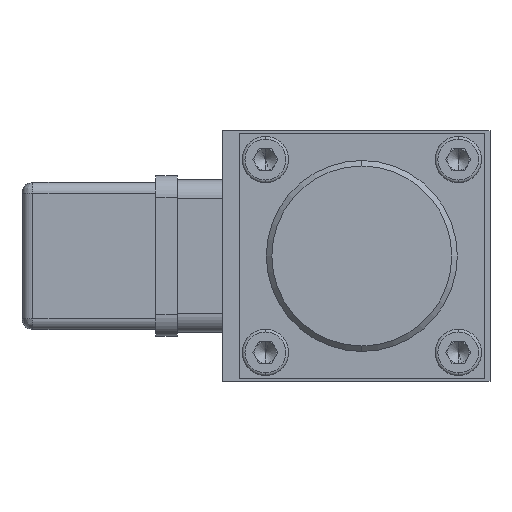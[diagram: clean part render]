
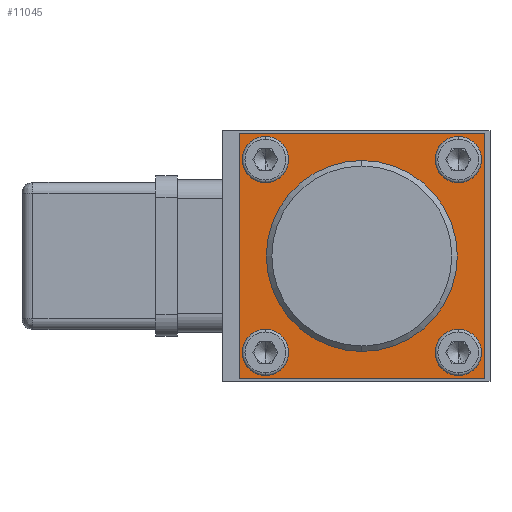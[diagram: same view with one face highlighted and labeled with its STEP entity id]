
A CAD part, left-side view. The second image highlights one B-rep face of the part: STEP entity #11045.
In plain terms, the highlighted planar face has unit normal (-1, 0, 0).
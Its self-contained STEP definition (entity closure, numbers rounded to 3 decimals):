
#39 = FACE_OUTER_BOUND ( 'NONE', #6439, .T. ) ;
#438 = VECTOR ( 'NONE', #838, 1000. ) ;
#477 = DIRECTION ( 'NONE',  ( 0., 0., -1. ) ) ;
#581 = CARTESIAN_POINT ( 'NONE',  ( -10.3, 21.5, 22.5 ) ) ;
#642 = ORIENTED_EDGE ( 'NONE', *, *, #50276, .T. ) ;
#752 = AXIS2_PLACEMENT_3D ( 'NONE', #14382, #14346, #14282 ) ;
#838 = DIRECTION ( 'NONE',  ( 0., 1., 0. ) ) ;
#933 = EDGE_CURVE ( 'NONE', #7398, #38280, #46740, .T. ) ;
#1149 = CARTESIAN_POINT ( 'NONE',  ( -10.3, -23.5, 22.5 ) ) ;
#2290 = DIRECTION ( 'NONE',  ( 0., 0., 1. ) ) ;
#3237 = DIRECTION ( 'NONE',  ( 0., -1., 0. ) ) ;
#3429 = CARTESIAN_POINT ( 'NONE',  ( -10.3, -18.68, -13.43 ) ) ;
#4287 = VERTEX_POINT ( 'NONE', #31654 ) ;
#4650 = ORIENTED_EDGE ( 'NONE', *, *, #933, .F. ) ;
#4733 = EDGE_LOOP ( 'NONE', ( #20591, #24471 ) ) ;
#5016 = VERTEX_POINT ( 'NONE', #42390 ) ;
#6439 = EDGE_LOOP ( 'NONE', ( #38947, #40164, #43174, #642 ) ) ;
#7152 = EDGE_CURVE ( 'NONE', #21377, #23053, #11452, .T. ) ;
#7398 = VERTEX_POINT ( 'NONE', #12045 ) ;
#7500 = CIRCLE ( 'NONE', #43555, 17.5 ) ;
#8492 = VERTEX_POINT ( 'NONE', #43678 ) ;
#8911 = VECTOR ( 'NONE', #3237, 1000. ) ;
#8925 = VECTOR ( 'NONE', #477, 1000. ) ;
#9335 = CARTESIAN_POINT ( 'NONE',  ( -10.3, -18.68, 21.93 ) ) ;
#9856 = EDGE_LOOP ( 'NONE', ( #46452, #47039 ) ) ;
#10150 = EDGE_CURVE ( 'NONE', #23053, #21377, #7500, .T. ) ;
#10442 = CIRCLE ( 'NONE', #21019, 4.25 ) ;
#10502 = ORIENTED_EDGE ( 'NONE', *, *, #47054, .F. ) ;
#11045 = ADVANCED_FACE ( 'NONE', ( #13138, #35220, #35169, #12760, #28371, #39 ), #25884, .T. ) ;
#11097 = VERTEX_POINT ( 'NONE', #24303 ) ;
#11127 = DIRECTION ( 'NONE',  ( 0., 0., 1. ) ) ;
#11171 = DIRECTION ( 'NONE',  ( -1., 0., 0. ) ) ;
#11187 = CARTESIAN_POINT ( 'NONE',  ( -10.3, -18.68, -17.68 ) ) ;
#11416 = EDGE_CURVE ( 'NONE', #11097, #8492, #38034, .T. ) ;
#11452 = CIRCLE ( 'NONE', #38316, 17.5 ) ;
#11817 = LINE ( 'NONE', #1149, #438 ) ;
#12045 = CARTESIAN_POINT ( 'NONE',  ( -10.3, 16.68, -13.43 ) ) ;
#12760 = FACE_BOUND ( 'NONE', #42669, .T. ) ;
#13003 = ORIENTED_EDGE ( 'NONE', *, *, #43407, .F. ) ;
#13138 = FACE_BOUND ( 'NONE', #35236, .T. ) ;
#13498 = EDGE_CURVE ( 'NONE', #5016, #51149, #11817, .T. ) ;
#14282 = DIRECTION ( 'NONE',  ( 0., 0., 1. ) ) ;
#14346 = DIRECTION ( 'NONE',  ( -1., 0., 0. ) ) ;
#14382 = CARTESIAN_POINT ( 'NONE',  ( -10.3, 16.68, 17.68 ) ) ;
#14754 = LINE ( 'NONE', #15874, #16463 ) ;
#15519 = AXIS2_PLACEMENT_3D ( 'NONE', #11187, #11171, #11127 ) ;
#15874 = CARTESIAN_POINT ( 'NONE',  ( -10.3, -23.5, 22.5 ) ) ;
#16050 = DIRECTION ( 'NONE',  ( 0., 0., 1. ) ) ;
#16463 = VECTOR ( 'NONE', #16050, 1000. ) ;
#17126 = CIRCLE ( 'NONE', #27341, 4.25 ) ;
#17387 = VERTEX_POINT ( 'NONE', #39886 ) ;
#17730 = DIRECTION ( 'NONE',  ( -1., 0., 0. ) ) ;
#18694 = AXIS2_PLACEMENT_3D ( 'NONE', #44980, #44928, #44873 ) ;
#18754 = CARTESIAN_POINT ( 'NONE',  ( -10.3, -18.68, 17.68 ) ) ;
#20412 = CIRCLE ( 'NONE', #26389, 4.25 ) ;
#20591 = ORIENTED_EDGE ( 'NONE', *, *, #10150, .F. ) ;
#20902 = CIRCLE ( 'NONE', #18694, 4.25 ) ;
#20941 = EDGE_CURVE ( 'NONE', #48378, #5016, #14754, .T. ) ;
#21019 = AXIS2_PLACEMENT_3D ( 'NONE', #36789, #43804, #43118 ) ;
#21377 = VERTEX_POINT ( 'NONE', #46652 ) ;
#23053 = VERTEX_POINT ( 'NONE', #49801 ) ;
#23884 = AXIS2_PLACEMENT_3D ( 'NONE', #26220, #26151, #26034 ) ;
#24303 = CARTESIAN_POINT ( 'NONE',  ( -10.3, 16.68, 21.93 ) ) ;
#24471 = ORIENTED_EDGE ( 'NONE', *, *, #7152, .F. ) ;
#25431 = DIRECTION ( 'NONE',  ( 0., 0., 1. ) ) ;
#25505 = DIRECTION ( 'NONE',  ( -1., 0., 0. ) ) ;
#25570 = CARTESIAN_POINT ( 'NONE',  ( -10.3, 34., 0. ) ) ;
#25884 = PLANE ( 'NONE',  #51044 ) ;
#26034 = DIRECTION ( 'NONE',  ( 0., 0., 1. ) ) ;
#26151 = DIRECTION ( 'NONE',  ( -1., 0., 0. ) ) ;
#26220 = CARTESIAN_POINT ( 'NONE',  ( -10.3, -18.68, 17.68 ) ) ;
#26389 = AXIS2_PLACEMENT_3D ( 'NONE', #47192, #47076, #47064 ) ;
#26932 = CARTESIAN_POINT ( 'NONE',  ( -10.3, -23.5, -22.5 ) ) ;
#27341 = AXIS2_PLACEMENT_3D ( 'NONE', #18754, #17730, #2290 ) ;
#28371 = FACE_BOUND ( 'NONE', #4733, .T. ) ;
#28722 = VERTEX_POINT ( 'NONE', #31821 ) ;
#29945 = LINE ( 'NONE', #581, #8925 ) ;
#30073 = EDGE_LOOP ( 'NONE', ( #48318, #51330 ) ) ;
#30329 = VERTEX_POINT ( 'NONE', #9335 ) ;
#31083 = DIRECTION ( 'NONE',  ( 0., 0., 1. ) ) ;
#31541 = DIRECTION ( 'NONE',  ( -1., 0., 0. ) ) ;
#31654 = CARTESIAN_POINT ( 'NONE',  ( -10.3, 21.5, -22.5 ) ) ;
#31764 = CARTESIAN_POINT ( 'NONE',  ( -10.3, -1., 0. ) ) ;
#31821 = CARTESIAN_POINT ( 'NONE',  ( -10.3, -18.68, 13.43 ) ) ;
#33044 = CARTESIAN_POINT ( 'NONE',  ( -10.3, 21.5, 22.5 ) ) ;
#34021 = DIRECTION ( 'NONE',  ( 0., 0., 1. ) ) ;
#34157 = DIRECTION ( 'NONE',  ( -1., 0., 0. ) ) ;
#34385 = CARTESIAN_POINT ( 'NONE',  ( -10.3, 16.68, -17.68 ) ) ;
#35169 = FACE_BOUND ( 'NONE', #30073, .T. ) ;
#35220 = FACE_BOUND ( 'NONE', #9856, .T. ) ;
#35236 = EDGE_LOOP ( 'NONE', ( #13003, #35645 ) ) ;
#35645 = ORIENTED_EDGE ( 'NONE', *, *, #41247, .F. ) ;
#35660 = CARTESIAN_POINT ( 'NONE',  ( -10.3, 16.68, -21.93 ) ) ;
#36789 = CARTESIAN_POINT ( 'NONE',  ( -10.3, 16.68, 17.68 ) ) ;
#37508 = CIRCLE ( 'NONE', #23884, 4.25 ) ;
#38034 = CIRCLE ( 'NONE', #752, 4.25 ) ;
#38280 = VERTEX_POINT ( 'NONE', #35660 ) ;
#38316 = AXIS2_PLACEMENT_3D ( 'NONE', #31764, #31541, #31083 ) ;
#38947 = ORIENTED_EDGE ( 'NONE', *, *, #51993, .T. ) ;
#39886 = CARTESIAN_POINT ( 'NONE',  ( -10.3, -18.68, -21.93 ) ) ;
#40164 = ORIENTED_EDGE ( 'NONE', *, *, #20941, .T. ) ;
#41247 = EDGE_CURVE ( 'NONE', #28722, #30329, #17126, .T. ) ;
#41827 = EDGE_CURVE ( 'NONE', #17387, #50050, #20412, .T. ) ;
#42390 = CARTESIAN_POINT ( 'NONE',  ( -10.3, -23.5, 22.5 ) ) ;
#42669 = EDGE_LOOP ( 'NONE', ( #4650, #10502 ) ) ;
#42761 = CARTESIAN_POINT ( 'NONE',  ( -10.3, -23.5, -22.5 ) ) ;
#43118 = DIRECTION ( 'NONE',  ( 0., 0., 1. ) ) ;
#43174 = ORIENTED_EDGE ( 'NONE', *, *, #13498, .T. ) ;
#43407 = EDGE_CURVE ( 'NONE', #30329, #28722, #37508, .T. ) ;
#43555 = AXIS2_PLACEMENT_3D ( 'NONE', #52628, #52581, #52468 ) ;
#43678 = CARTESIAN_POINT ( 'NONE',  ( -10.3, 16.68, 13.43 ) ) ;
#43804 = DIRECTION ( 'NONE',  ( -1., 0., 0. ) ) ;
#44873 = DIRECTION ( 'NONE',  ( 0., 0., 1. ) ) ;
#44928 = DIRECTION ( 'NONE',  ( -1., 0., 0. ) ) ;
#44980 = CARTESIAN_POINT ( 'NONE',  ( -10.3, 16.68, -17.68 ) ) ;
#45500 = EDGE_CURVE ( 'NONE', #8492, #11097, #10442, .T. ) ;
#46452 = ORIENTED_EDGE ( 'NONE', *, *, #49535, .F. ) ;
#46652 = CARTESIAN_POINT ( 'NONE',  ( -10.3, -1., -17.5 ) ) ;
#46740 = CIRCLE ( 'NONE', #51232, 4.25 ) ;
#47039 = ORIENTED_EDGE ( 'NONE', *, *, #41827, .F. ) ;
#47054 = EDGE_CURVE ( 'NONE', #38280, #7398, #20902, .T. ) ;
#47064 = DIRECTION ( 'NONE',  ( 0., 0., 1. ) ) ;
#47076 = DIRECTION ( 'NONE',  ( -1., 0., 0. ) ) ;
#47192 = CARTESIAN_POINT ( 'NONE',  ( -10.3, -18.68, -17.68 ) ) ;
#48318 = ORIENTED_EDGE ( 'NONE', *, *, #11416, .F. ) ;
#48378 = VERTEX_POINT ( 'NONE', #26932 ) ;
#49535 = EDGE_CURVE ( 'NONE', #50050, #17387, #51286, .T. ) ;
#49801 = CARTESIAN_POINT ( 'NONE',  ( -10.3, -1., 17.5 ) ) ;
#50050 = VERTEX_POINT ( 'NONE', #3429 ) ;
#50276 = EDGE_CURVE ( 'NONE', #51149, #4287, #29945, .T. ) ;
#51044 = AXIS2_PLACEMENT_3D ( 'NONE', #25570, #25505, #25431 ) ;
#51149 = VERTEX_POINT ( 'NONE', #33044 ) ;
#51232 = AXIS2_PLACEMENT_3D ( 'NONE', #34385, #34157, #34021 ) ;
#51286 = CIRCLE ( 'NONE', #15519, 4.25 ) ;
#51330 = ORIENTED_EDGE ( 'NONE', *, *, #45500, .F. ) ;
#51838 = LINE ( 'NONE', #42761, #8911 ) ;
#51993 = EDGE_CURVE ( 'NONE', #4287, #48378, #51838, .T. ) ;
#52468 = DIRECTION ( 'NONE',  ( 0., 0., 1. ) ) ;
#52581 = DIRECTION ( 'NONE',  ( -1., 0., 0. ) ) ;
#52628 = CARTESIAN_POINT ( 'NONE',  ( -10.3, -1., 0. ) ) ;
